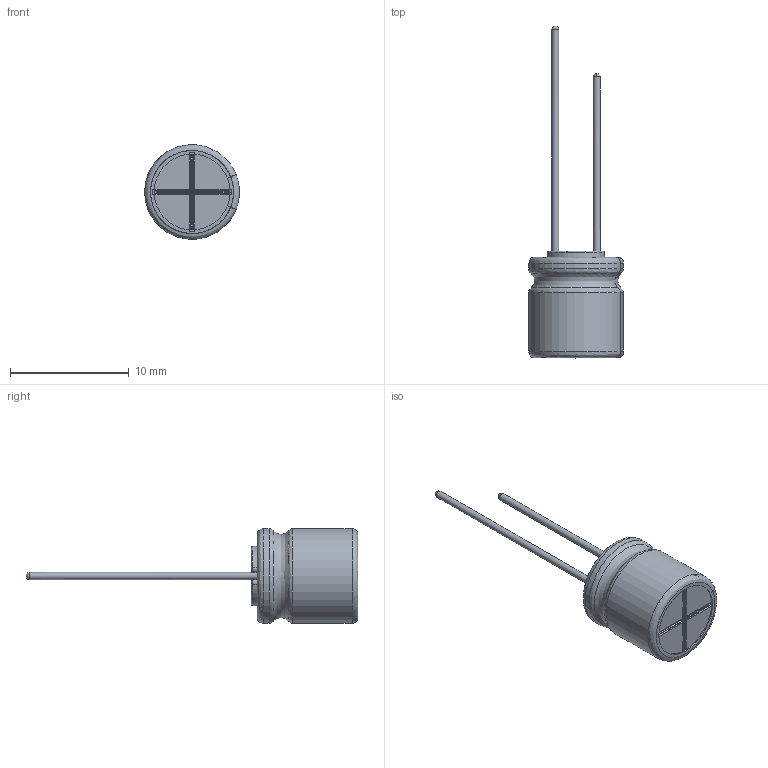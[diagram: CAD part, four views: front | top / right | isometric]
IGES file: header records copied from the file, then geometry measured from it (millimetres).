
Start section: JAMA-IS VERSION  1.0
Bounding box: 7.99 x 28 x 8 mm (x, y, z)
Surface area: 854.4 mm2 (no closed solid volume)
Topology: 0 solids, 0 shells, 115 faces, 1347 edges, 1328 vertices
Faces by surface type: bspline 115
